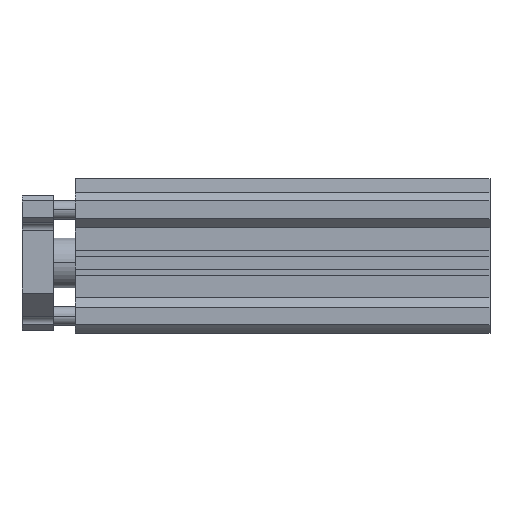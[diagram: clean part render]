
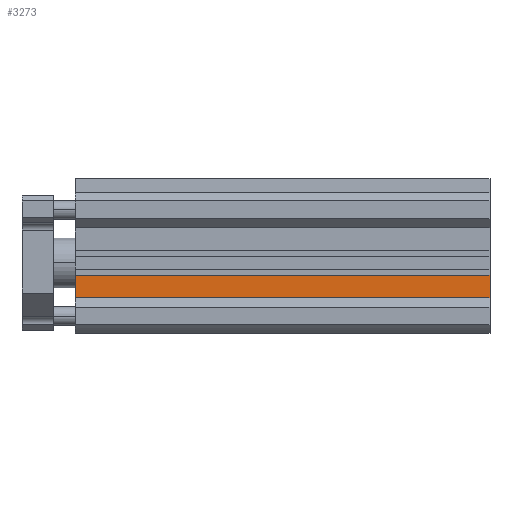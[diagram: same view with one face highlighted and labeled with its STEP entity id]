
A CAD part, top view. The second image highlights one B-rep face of the part: STEP entity #3273.
In plain terms, the highlighted planar face has unit normal (0, 0, 1).
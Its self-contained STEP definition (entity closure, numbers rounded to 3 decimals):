
#86 = ORIENTED_EDGE ( 'NONE', *, *, #4968, .F. ) ;
#125 = LINE ( 'NONE', #1310, #1026 ) ;
#256 = CARTESIAN_POINT ( 'NONE',  ( 133., -11.2, 19.5 ) ) ;
#640 = LINE ( 'NONE', #256, #4527 ) ;
#662 = VERTEX_POINT ( 'NONE', #770 ) ;
#770 = CARTESIAN_POINT ( 'NONE',  ( 0., -4., 19.5 ) ) ;
#895 = ORIENTED_EDGE ( 'NONE', *, *, #4558, .F. ) ;
#1026 = VECTOR ( 'NONE', #4472, 1000. ) ;
#1041 = EDGE_CURVE ( 'NONE', #3456, #662, #4443, .T. ) ;
#1148 = EDGE_LOOP ( 'NONE', ( #2768, #86, #895, #4943 ) ) ;
#1291 = DIRECTION ( 'NONE',  ( 0., -1., 0. ) ) ;
#1310 = CARTESIAN_POINT ( 'NONE',  ( 0., -4., 19.5 ) ) ;
#1560 = CARTESIAN_POINT ( 'NONE',  ( 133., -4., 19.5 ) ) ;
#1640 = VECTOR ( 'NONE', #3159, 1000. ) ;
#1763 = CARTESIAN_POINT ( 'NONE',  ( 133., -11.2, 19.5 ) ) ;
#2352 = DIRECTION ( 'NONE',  ( 0., -1., 0. ) ) ;
#2501 = PLANE ( 'NONE',  #4747 ) ;
#2529 = FACE_OUTER_BOUND ( 'NONE', #1148, .T. ) ;
#2575 = CARTESIAN_POINT ( 'NONE',  ( 133., -4., 19.5 ) ) ;
#2619 = CARTESIAN_POINT ( 'NONE',  ( 133., -4., 19.5 ) ) ;
#2768 = ORIENTED_EDGE ( 'NONE', *, *, #3745, .T. ) ;
#3076 = VERTEX_POINT ( 'NONE', #4263 ) ;
#3159 = DIRECTION ( 'NONE',  ( -1., 0., 0. ) ) ;
#3273 = ADVANCED_FACE ( 'NONE', ( #2529 ), #2501, .F. ) ;
#3371 = VECTOR ( 'NONE', #2352, 1000. ) ;
#3436 = DIRECTION ( 'NONE',  ( -1., 0., 0. ) ) ;
#3456 = VERTEX_POINT ( 'NONE', #2619 ) ;
#3745 = EDGE_CURVE ( 'NONE', #662, #3076, #125, .T. ) ;
#4246 = LINE ( 'NONE', #4324, #3371 ) ;
#4263 = CARTESIAN_POINT ( 'NONE',  ( 0., -11.2, 19.5 ) ) ;
#4324 = CARTESIAN_POINT ( 'NONE',  ( 133., -4., 19.5 ) ) ;
#4443 = LINE ( 'NONE', #1560, #1640 ) ;
#4472 = DIRECTION ( 'NONE',  ( 0., -1., 0. ) ) ;
#4478 = DIRECTION ( 'NONE',  ( 0., 0., -1. ) ) ;
#4527 = VECTOR ( 'NONE', #3436, 1000. ) ;
#4558 = EDGE_CURVE ( 'NONE', #3456, #4898, #4246, .T. ) ;
#4747 = AXIS2_PLACEMENT_3D ( 'NONE', #2575, #4478, #1291 ) ;
#4898 = VERTEX_POINT ( 'NONE', #1763 ) ;
#4943 = ORIENTED_EDGE ( 'NONE', *, *, #1041, .T. ) ;
#4968 = EDGE_CURVE ( 'NONE', #4898, #3076, #640, .T. ) ;
